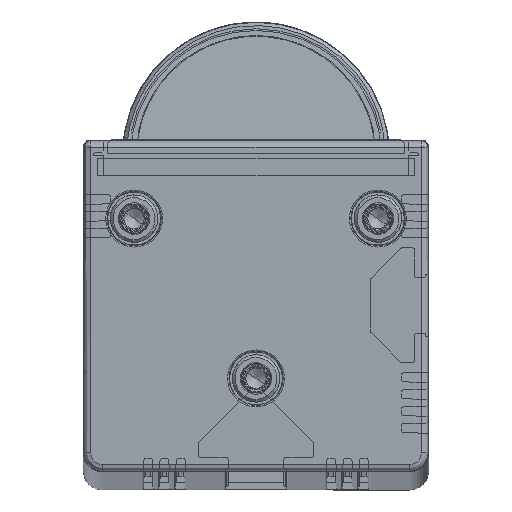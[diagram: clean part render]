
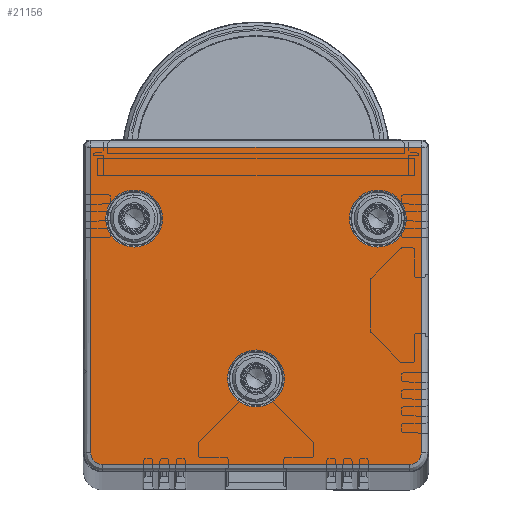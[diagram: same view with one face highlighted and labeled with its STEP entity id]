
A CAD part, top view. The second image highlights one B-rep face of the part: STEP entity #21156.
In plain terms, the highlighted planar face has unit normal (0, 0, 1).
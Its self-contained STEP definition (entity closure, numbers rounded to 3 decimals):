
#156 = LINE ( 'NONE', #17262, #1764 ) ;
#294 = DIRECTION ( 'NONE',  ( 0., 0., -1. ) ) ;
#458 = EDGE_CURVE ( 'NONE', #21787, #3862, #7487, .T. ) ;
#533 = CARTESIAN_POINT ( 'NONE',  ( 18., 37.302, 0. ) ) ;
#684 = PLANE ( 'NONE',  #5454 ) ;
#709 = CARTESIAN_POINT ( 'NONE',  ( 22.197, 37.302, 0. ) ) ;
#880 = DIRECTION ( 'NONE',  ( -1., 0., 0. ) ) ;
#923 = EDGE_LOOP ( 'NONE', ( #23233, #17493 ) ) ;
#1133 = CARTESIAN_POINT ( 'NONE',  ( 0., 13.712, 0. ) ) ;
#1194 = CIRCLE ( 'NONE', #5203, 4.197 ) ;
#1246 = CARTESIAN_POINT ( 'NONE',  ( -24.5, 47.817, 0. ) ) ;
#1626 = ORIENTED_EDGE ( 'NONE', *, *, #14888, .T. ) ;
#1764 = VECTOR ( 'NONE', #23009, 1000. ) ;
#2049 = DIRECTION ( 'NONE',  ( 0., 0., -1. ) ) ;
#2490 = VERTEX_POINT ( 'NONE', #21565 ) ;
#2953 = VECTOR ( 'NONE', #15311, 1000. ) ;
#3078 = EDGE_LOOP ( 'NONE', ( #12138, #1626, #19187, #10563, #6516, #15197 ) ) ;
#3091 = VERTEX_POINT ( 'NONE', #18107 ) ;
#3245 = DIRECTION ( 'NONE',  ( -1., 0., 0. ) ) ;
#3316 = EDGE_CURVE ( 'NONE', #11809, #3091, #1194, .T. ) ;
#3862 = VERTEX_POINT ( 'NONE', #5627 ) ;
#3956 = CIRCLE ( 'NONE', #19606, 1.717 ) ;
#4564 = CARTESIAN_POINT ( 'NONE',  ( -13.803, 37.302, 0. ) ) ;
#4889 = CARTESIAN_POINT ( 'NONE',  ( 22.7, 2.7, 0. ) ) ;
#4995 = CIRCLE ( 'NONE', #19053, 4.197 ) ;
#5125 = ORIENTED_EDGE ( 'NONE', *, *, #16236, .T. ) ;
#5203 = AXIS2_PLACEMENT_3D ( 'NONE', #1133, #7259, #8892 ) ;
#5454 = AXIS2_PLACEMENT_3D ( 'NONE', #13878, #23159, #19674 ) ;
#5627 = CARTESIAN_POINT ( 'NONE',  ( 24.417, 2.7, 0. ) ) ;
#5661 = DIRECTION ( 'NONE',  ( 0., 0., -1. ) ) ;
#6208 = FACE_OUTER_BOUND ( 'NONE', #3078, .T. ) ;
#6384 = CIRCLE ( 'NONE', #24439, 4.197 ) ;
#6409 = CARTESIAN_POINT ( 'NONE',  ( 24.417, 47.817, 0. ) ) ;
#6420 = VERTEX_POINT ( 'NONE', #13791 ) ;
#6516 = ORIENTED_EDGE ( 'NONE', *, *, #18168, .T. ) ;
#6599 = CARTESIAN_POINT ( 'NONE',  ( 0., 13.712, 0. ) ) ;
#6714 = DIRECTION ( 'NONE',  ( 0., 0., -1. ) ) ;
#7239 = CIRCLE ( 'NONE', #21292, 4.197 ) ;
#7259 = DIRECTION ( 'NONE',  ( 0., 0., -1. ) ) ;
#7329 = CIRCLE ( 'NONE', #14165, 4.197 ) ;
#7487 = CIRCLE ( 'NONE', #16738, 1.717 ) ;
#7551 = CARTESIAN_POINT ( 'NONE',  ( -18., 37.302, 0. ) ) ;
#8084 = FACE_BOUND ( 'NONE', #21190, .T. ) ;
#8135 = VERTEX_POINT ( 'NONE', #709 ) ;
#8258 = VECTOR ( 'NONE', #21287, 1000. ) ;
#8503 = ORIENTED_EDGE ( 'NONE', *, *, #10666, .T. ) ;
#8616 = EDGE_CURVE ( 'NONE', #17947, #6420, #6384, .T. ) ;
#8857 = CARTESIAN_POINT ( 'NONE',  ( -22.7, 2.7, 0. ) ) ;
#8892 = DIRECTION ( 'NONE',  ( -1., 0., 0. ) ) ;
#10088 = LINE ( 'NONE', #17789, #8258 ) ;
#10563 = ORIENTED_EDGE ( 'NONE', *, *, #21170, .T. ) ;
#10608 = DIRECTION ( 'NONE',  ( -1., 0., 0. ) ) ;
#10666 = EDGE_CURVE ( 'NONE', #3091, #11809, #7239, .T. ) ;
#11263 = ORIENTED_EDGE ( 'NONE', *, *, #8616, .T. ) ;
#11499 = CIRCLE ( 'NONE', #14708, 4.197 ) ;
#11809 = VERTEX_POINT ( 'NONE', #18602 ) ;
#12138 = ORIENTED_EDGE ( 'NONE', *, *, #458, .T. ) ;
#12306 = CARTESIAN_POINT ( 'NONE',  ( -22.7, 0.983, 0. ) ) ;
#12558 = DIRECTION ( 'NONE',  ( 0., 0., 1. ) ) ;
#12718 = EDGE_CURVE ( 'NONE', #23608, #2490, #18454, .T. ) ;
#13098 = EDGE_LOOP ( 'NONE', ( #20268, #8503 ) ) ;
#13181 = LINE ( 'NONE', #21080, #2953 ) ;
#13205 = EDGE_CURVE ( 'NONE', #16347, #21787, #156, .T. ) ;
#13487 = DIRECTION ( 'NONE',  ( -1., 0., 0. ) ) ;
#13570 = DIRECTION ( 'NONE',  ( -1., 0., 0. ) ) ;
#13791 = CARTESIAN_POINT ( 'NONE',  ( -22.197, 37.302, 0. ) ) ;
#13867 = CARTESIAN_POINT ( 'NONE',  ( -18., 37.302, 0. ) ) ;
#13878 = CARTESIAN_POINT ( 'NONE',  ( -22.7, 2.7, 0. ) ) ;
#14165 = AXIS2_PLACEMENT_3D ( 'NONE', #7551, #15235, #880 ) ;
#14708 = AXIS2_PLACEMENT_3D ( 'NONE', #533, #2049, #19643 ) ;
#14839 = CARTESIAN_POINT ( 'NONE',  ( -24.417, 2.7, 0. ) ) ;
#14888 = EDGE_CURVE ( 'NONE', #3862, #23608, #13181, .T. ) ;
#15197 = ORIENTED_EDGE ( 'NONE', *, *, #13205, .T. ) ;
#15235 = DIRECTION ( 'NONE',  ( 0., 0., -1. ) ) ;
#15311 = DIRECTION ( 'NONE',  ( 0., 1., 0. ) ) ;
#15770 = FACE_BOUND ( 'NONE', #923, .T. ) ;
#15896 = FACE_BOUND ( 'NONE', #13098, .T. ) ;
#16178 = VECTOR ( 'NONE', #3245, 1000. ) ;
#16236 = EDGE_CURVE ( 'NONE', #6420, #17947, #7329, .T. ) ;
#16347 = VERTEX_POINT ( 'NONE', #12306 ) ;
#16738 = AXIS2_PLACEMENT_3D ( 'NONE', #4889, #12558, #20223 ) ;
#17262 = CARTESIAN_POINT ( 'NONE',  ( 22.7, 0.983, 0. ) ) ;
#17493 = ORIENTED_EDGE ( 'NONE', *, *, #19546, .T. ) ;
#17789 = CARTESIAN_POINT ( 'NONE',  ( -24.417, 2.7, 0. ) ) ;
#17947 = VERTEX_POINT ( 'NONE', #4564 ) ;
#18107 = CARTESIAN_POINT ( 'NONE',  ( 4.197, 13.712, 0. ) ) ;
#18168 = EDGE_CURVE ( 'NONE', #19891, #16347, #3956, .T. ) ;
#18454 = LINE ( 'NONE', #1246, #16178 ) ;
#18602 = CARTESIAN_POINT ( 'NONE',  ( -4.197, 13.712, 0. ) ) ;
#19053 = AXIS2_PLACEMENT_3D ( 'NONE', #19096, #5661, #13570 ) ;
#19096 = CARTESIAN_POINT ( 'NONE',  ( 18., 37.302, 0. ) ) ;
#19187 = ORIENTED_EDGE ( 'NONE', *, *, #12718, .T. ) ;
#19546 = EDGE_CURVE ( 'NONE', #8135, #21063, #11499, .T. ) ;
#19606 = AXIS2_PLACEMENT_3D ( 'NONE', #8857, #21939, #19943 ) ;
#19643 = DIRECTION ( 'NONE',  ( -1., 0., 0. ) ) ;
#19674 = DIRECTION ( 'NONE',  ( -1., 0., 0. ) ) ;
#19789 = CARTESIAN_POINT ( 'NONE',  ( 13.803, 37.302, 0. ) ) ;
#19891 = VERTEX_POINT ( 'NONE', #14839 ) ;
#19943 = DIRECTION ( 'NONE',  ( -1., 0., 0. ) ) ;
#20057 = EDGE_CURVE ( 'NONE', #21063, #8135, #4995, .T. ) ;
#20223 = DIRECTION ( 'NONE',  ( -1., 0., 0. ) ) ;
#20268 = ORIENTED_EDGE ( 'NONE', *, *, #3316, .T. ) ;
#21063 = VERTEX_POINT ( 'NONE', #19789 ) ;
#21080 = CARTESIAN_POINT ( 'NONE',  ( 24.417, 47.9, 0. ) ) ;
#21156 = ADVANCED_FACE ( 'NONE', ( #15896, #8084, #15770, #6208 ), #684, .F. ) ;
#21170 = EDGE_CURVE ( 'NONE', #2490, #19891, #10088, .T. ) ;
#21190 = EDGE_LOOP ( 'NONE', ( #5125, #11263 ) ) ;
#21287 = DIRECTION ( 'NONE',  ( 0., -1., 0. ) ) ;
#21292 = AXIS2_PLACEMENT_3D ( 'NONE', #6599, #6714, #10608 ) ;
#21565 = CARTESIAN_POINT ( 'NONE',  ( -24.417, 47.817, 0. ) ) ;
#21787 = VERTEX_POINT ( 'NONE', #24436 ) ;
#21939 = DIRECTION ( 'NONE',  ( 0., 0., 1. ) ) ;
#23009 = DIRECTION ( 'NONE',  ( 1., 0., 0. ) ) ;
#23159 = DIRECTION ( 'NONE',  ( 0., 0., -1. ) ) ;
#23233 = ORIENTED_EDGE ( 'NONE', *, *, #20057, .T. ) ;
#23608 = VERTEX_POINT ( 'NONE', #6409 ) ;
#24436 = CARTESIAN_POINT ( 'NONE',  ( 22.7, 0.983, 0. ) ) ;
#24439 = AXIS2_PLACEMENT_3D ( 'NONE', #13867, #294, #13487 ) ;
